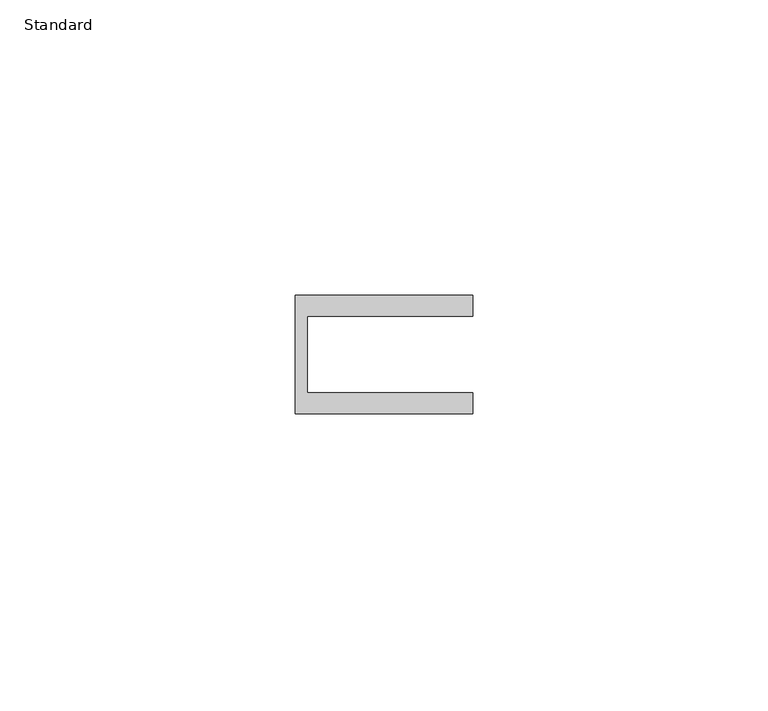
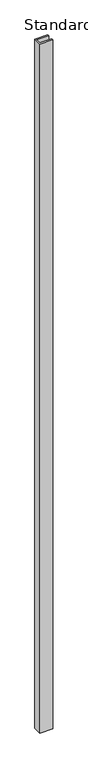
"""IFC4 building model written with IfcOpenShell, lengths in millimetres: furniture geometry, X_Partition-Channel-Duracube-End : Standard."""

from ifc_helpers import new_model, si_unit, frame, origin, place, context, project, spatial, polyline, outline, extrude, source, transform, mapped, element, save


def standard_f6136b52(model_context):
    return source(origin(), model_context, "Body", "SweptSolid", [
        extrude(outline(polyline([(31.7003264, 0.0), (59.7003264, 0.0), (59.7003264, -3.5), (29.7003264, -3.5), (29.7003264, 16.5), (59.7003264, 16.5), (59.7003264, 13.0), (31.7003264, 13.0), (31.7003264, 0.0)])), frame((0.0, 0.0, 200.0), z_axis=(0.0, 0.0, 1.0), x_axis=(1.0, 0.0, 0.0)), (0.0, 0.0, 1.0), 1700.0),
    ])


if __name__ == "__main__":
    model = new_model("IFC4")
    model_context = context("Model", 3, world=origin())
    ifc_project = project(units=[si_unit("LENGTHUNIT", "METRE", prefix="MILLI")], contexts=[model_context])
    site = spatial("IfcSite", under=ifc_project)
    building = spatial("IfcBuilding", under=site)
    placement = place(None, origin())
    standard_shape = standard_f6136b52(model_context)
    element("IfcFurniture", 1, ObjectType="X_Partition-Channel-Duracube-End : Standard", at=placement, inside=building, context=model_context, shape_type="MappedRepresentation", body=[
        mapped(standard_shape, transform((0.0, 0.0, 0.0), x_axis=(1.0, 0.0, 0.0), y_axis=(0.0, 1.0, 0.0), z_axis=(0.0, 0.0, 1.0))),
    ])
    save(model, "model.ifc")
